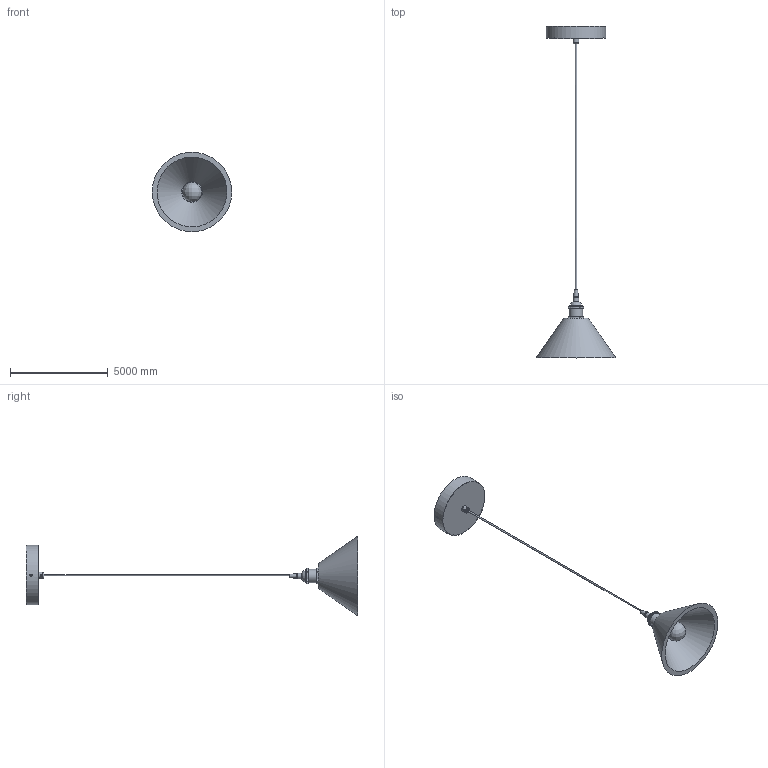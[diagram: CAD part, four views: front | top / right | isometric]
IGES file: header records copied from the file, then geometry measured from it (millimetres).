
Global section: file name: Conical Brass Alabaster Pendant Lamp; native system: AutoCAD 2022 - 简体中文 (Simplified Chinese),62HAuto; preprocessor: desk Translation Framework DWG producer (atf_dwg_producer); organization: unknown; date: 20260104.163619; units: inch
Bounding box: 4064 x 16979.43 x 4063.99 mm (x, y, z)
Volume: 5086058139.4 mm3; surface area: 82838337.6 mm2
Topology: 9 solids, 9 shells, 1027 faces, 3035 edges, 2036 vertices
Faces by surface type: bspline 1027
